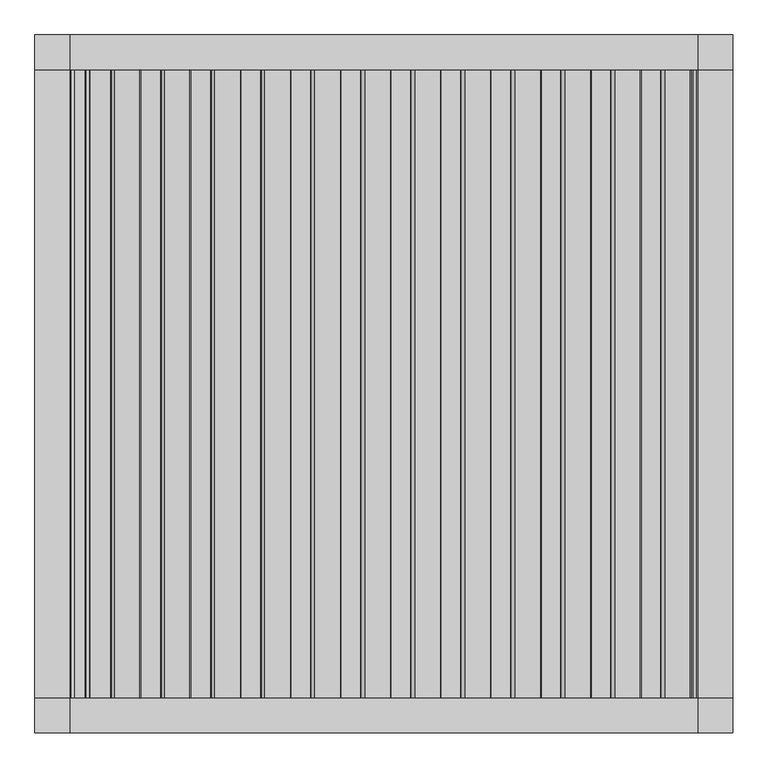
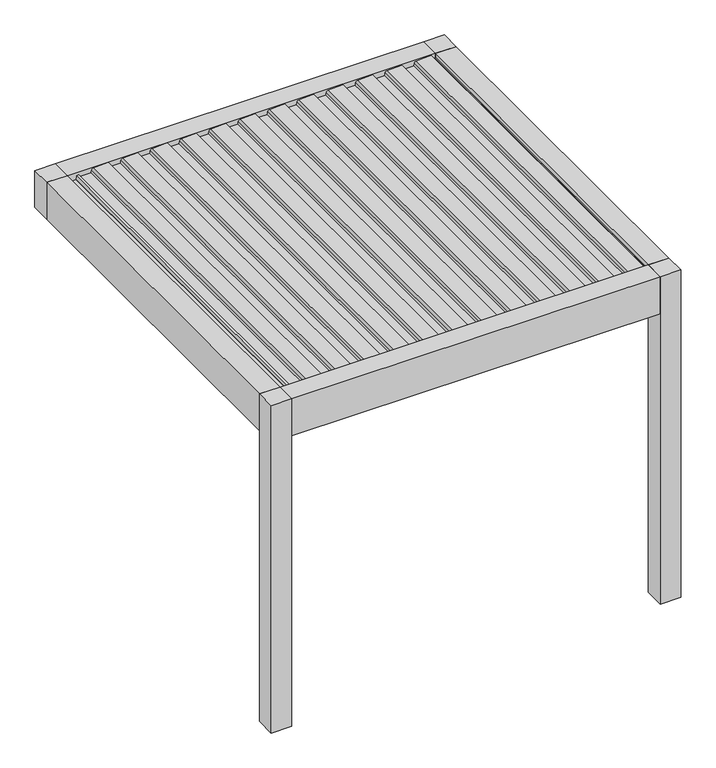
"""IFC4 building model written with IfcOpenShell, lengths in millimetres: proxy geometry, Renson_Amani_Patio_Cover : Renson_Amani_Patio_Cover."""

from ifc_helpers import new_model, si_unit, point, frame, frame_2d, origin, origin_with_axes, place, context, project, spatial, polyline, circle_curve, trimmed, segment, composite_curve, outline, extrude, source, transform, mapped, element, save


def generic_models_6c670f7b(model_context):
    return source(origin(), model_context, "Body", "SweptSolid", [
        extrude(outline(composite_curve([segment(polyline([(2483.35, 1073.7289238), (2511.01198, 1076.1490335), (2512.3970364, 1104.984284), (2531.8911096, 1101.5469529), (2526.6075693, 991.549838)]), True, "CONTINUOUS"), segment(trimmed(circle_curve(frame_2d((2511.6248435, 992.26951)), 15.0), [point((2526.6075693, 991.549838))], [point((2514.2295662, 977.4973937))], False, "CARTESIAN"), True, "CONTINUOUS"), segment(polyline([(2514.2295662, 977.4973937), (2495.0, 974.1067023), (2495.0, 886.3709263), (2512.0788237, 883.3594689), (2511.3450182, 868.0824984), (2483.35, 865.6332517), (2483.35, 1073.7289238)]), True, "CONTINUOUS")], self_intersect=False)), frame((0.0, -1350.0, 0.0), z_axis=(0.0, 1.0, 0.0), x_axis=(0.0, 0.0, 1.0)), (0.0, 0.0, 1.0), 2700.0),
        extrude(outline(composite_curve([segment(polyline([(2483.35, 858.7132078), (2511.01198, 861.1333174), (2512.3970364, 889.9685679), (2531.8911096, 886.5312368), (2526.6075693, 776.534122)]), True, "CONTINUOUS"), segment(trimmed(circle_curve(frame_2d((2511.6248435, 777.2537939)), 15.0), [point((2526.6075693, 776.534122))], [point((2514.2295662, 762.4816776))], False, "CARTESIAN"), True, "CONTINUOUS"), segment(polyline([(2514.2295662, 762.4816776), (2495.0, 759.0909863), (2495.0, 671.3552102), (2512.0788237, 668.3437528), (2511.3450182, 653.0667824), (2483.35, 650.6175356), (2483.35, 858.7132078)]), True, "CONTINUOUS")], self_intersect=False)), frame((0.0, -1350.0, 0.0), z_axis=(0.0, 1.0, 0.0), x_axis=(0.0, 0.0, 1.0)), (0.0, 0.0, 1.0), 2700.0),
        extrude(outline(composite_curve([segment(polyline([(2483.35, 643.6974917), (2511.01198, 646.1176014), (2512.3970364, 674.9528519), (2531.8911096, 671.5155208), (2526.6075693, 561.5184059)]), True, "CONTINUOUS"), segment(trimmed(circle_curve(frame_2d((2511.6248435, 562.2380779)), 15.0), [point((2526.6075693, 561.5184059))], [point((2514.2295662, 547.4659616))], False, "CARTESIAN"), True, "CONTINUOUS"), segment(polyline([(2514.2295662, 547.4659616), (2495.0, 544.0752702), (2495.0, 456.3394942), (2512.0788237, 453.3280368), (2511.3450182, 438.0510663), (2483.35, 435.6018196), (2483.35, 643.6974917)]), True, "CONTINUOUS")], self_intersect=False)), frame((0.0, -1350.0, 0.0), z_axis=(0.0, 1.0, 0.0), x_axis=(0.0, 0.0, 1.0)), (0.0, 0.0, 1.0), 2700.0),
        extrude(outline(composite_curve([segment(polyline([(2483.35, 428.6817757), (2511.01198, 431.1018854), (2512.3970364, 459.9371358), (2531.8911096, 456.4998047), (2526.6075693, 346.5026899)]), True, "CONTINUOUS"), segment(trimmed(circle_curve(frame_2d((2511.6248435, 347.2223618)), 15.0), [point((2526.6075693, 346.5026899))], [point((2514.2295662, 332.4502455))], False, "CARTESIAN"), True, "CONTINUOUS"), segment(polyline([(2514.2295662, 332.4502455), (2495.0, 329.0595542), (2495.0, 241.3237782), (2512.0788237, 238.3123207), (2511.3450182, 223.0353503), (2483.35, 220.5861035), (2483.35, 428.6817757)]), True, "CONTINUOUS")], self_intersect=False)), frame((0.0, -1350.0, 0.0), z_axis=(0.0, 1.0, 0.0), x_axis=(0.0, 0.0, 1.0)), (0.0, 0.0, 1.0), 2700.0),
        extrude(outline(composite_curve([segment(polyline([(2483.35, 213.6660597), (2511.01198, 216.0861693), (2512.3970364, 244.9214198), (2531.8911096, 241.4840887), (2526.6075693, 131.4869738)]), True, "CONTINUOUS"), segment(trimmed(circle_curve(frame_2d((2511.6248435, 132.2066458)), 15.0), [point((2526.6075693, 131.4869738))], [point((2514.2295662, 117.4345295))], False, "CARTESIAN"), True, "CONTINUOUS"), segment(polyline([(2514.2295662, 117.4345295), (2495.0, 114.0438381), (2495.0, 26.3080621), (2512.0788237, 23.2966047), (2511.3450182, 8.0196342), (2483.35, 5.5703875), (2483.35, 213.6660597)]), True, "CONTINUOUS")], self_intersect=False)), frame((0.0, -1350.0, 0.0), z_axis=(0.0, 1.0, 0.0), x_axis=(0.0, 0.0, 1.0)), (0.0, 0.0, 1.0), 2700.0),
        extrude(outline(composite_curve([segment(polyline([(2483.35, -1.3496564), (2511.01198, 1.0704533), (2512.3970364, 29.9057037), (2531.8911096, 26.4683726), (2526.6075693, -83.5287422)]), True, "CONTINUOUS"), segment(trimmed(circle_curve(frame_2d((2511.6248435, -82.8090703)), 15.0), [point((2526.6075693, -83.5287422))], [point((2514.2295662, -97.5811866))], False, "CARTESIAN"), True, "CONTINUOUS"), segment(polyline([(2514.2295662, -97.5811866), (2495.0, -100.9718779), (2495.0, -188.7076539), (2512.0788237, -191.7191114), (2511.3450182, -206.9960818), (2483.35, -209.4453286), (2483.35, -1.3496564)]), True, "CONTINUOUS")], self_intersect=False)), frame((0.0, -1350.0, 0.0), z_axis=(0.0, 1.0, 0.0), x_axis=(0.0, 0.0, 1.0)), (0.0, 0.0, 1.0), 2700.0),
        extrude(outline(composite_curve([segment(polyline([(2483.35, -216.3653724), (2511.01198, -213.9452628), (2512.3970364, -185.1100123), (2531.8911096, -188.5473434), (2526.6075693, -298.5444582)]), True, "CONTINUOUS"), segment(trimmed(circle_curve(frame_2d((2511.6248435, -297.8247863)), 15.0), [point((2526.6075693, -298.5444582))], [point((2514.2295662, -312.5969026))], False, "CARTESIAN"), True, "CONTINUOUS"), segment(polyline([(2514.2295662, -312.5969026), (2495.0, -315.987594), (2495.0, -403.72337), (2512.0788237, -406.7348274), (2511.3450182, -422.0117979), (2483.35, -424.4610446), (2483.35, -216.3653724)]), True, "CONTINUOUS")], self_intersect=False)), frame((0.0, -1350.0, 0.0), z_axis=(0.0, 1.0, 0.0), x_axis=(0.0, 0.0, 1.0)), (0.0, 0.0, 1.0), 2700.0),
        extrude(outline(composite_curve([segment(polyline([(2483.35, -431.3810885), (2511.01198, -428.9609788), (2512.3970364, -400.1257284), (2531.8911096, -403.5630594), (2526.6075693, -513.5601743)]), True, "CONTINUOUS"), segment(trimmed(circle_curve(frame_2d((2511.6248435, -512.8405024)), 15.0), [point((2526.6075693, -513.5601743))], [point((2514.2295662, -527.6126187))], False, "CARTESIAN"), True, "CONTINUOUS"), segment(polyline([(2514.2295662, -527.6126187), (2495.0, -531.00331), (2495.0, -618.739086), (2512.0788237, -621.7505434), (2511.3450182, -637.0275139), (2483.35, -639.4767606), (2483.35, -431.3810885)]), True, "CONTINUOUS")], self_intersect=False)), frame((0.0, -1350.0, 0.0), z_axis=(0.0, 1.0, 0.0), x_axis=(0.0, 0.0, 1.0)), (0.0, 0.0, 1.0), 2700.0),
        extrude(outline(composite_curve([segment(polyline([(2483.35, -646.3968045), (2511.01198, -643.9766949), (2512.3970364, -615.1414444), (2531.8911096, -618.5787755), (2526.6075693, -728.5758903)]), True, "CONTINUOUS"), segment(trimmed(circle_curve(frame_2d((2511.6248435, -727.8562184)), 15.0), [point((2526.6075693, -728.5758903))], [point((2514.2295662, -742.6283347))], False, "CARTESIAN"), True, "CONTINUOUS"), segment(polyline([(2514.2295662, -742.6283347), (2495.0, -746.019026), (2495.0, -833.7548021), (2512.0788237, -836.7662595), (2511.3450182, -852.04323), (2483.35, -854.4924767), (2483.35, -646.3968045)]), True, "CONTINUOUS")], self_intersect=False)), frame((0.0, -1350.0, 0.0), z_axis=(0.0, 1.0, 0.0), x_axis=(0.0, 0.0, 1.0)), (0.0, 0.0, 1.0), 2700.0),
        extrude(outline(composite_curve([segment(polyline([(2483.35, -861.4125206), (2511.01198, -858.9924109), (2512.3970364, -830.1571605), (2531.8911096, -833.5944915), (2526.6075693, -943.5916064)]), True, "CONTINUOUS"), segment(trimmed(circle_curve(frame_2d((2511.6248435, -942.8719345)), 15.0), [point((2526.6075693, -943.5916064))], [point((2514.2295662, -957.6440508))], False, "CARTESIAN"), True, "CONTINUOUS"), segment(polyline([(2514.2295662, -957.6440508), (2495.0, -961.0347421), (2495.0, -1048.7705181), (2512.0788237, -1051.7819755), (2511.3450182, -1067.058946), (2483.35, -1069.5081927), (2483.35, -861.4125206)]), True, "CONTINUOUS")], self_intersect=False)), frame((0.0, -1350.0, 0.0), z_axis=(0.0, 1.0, 0.0), x_axis=(0.0, 0.0, 1.0)), (0.0, 0.0, 1.0), 2700.0),
        extrude(outline(composite_curve([segment(polyline([(2483.35, 1288.7446399), (2511.01198, 1291.1647495), (2512.3970364, 1320.0), (2531.8911096, 1316.5626689), (2526.6075693, 1206.5655541)]), True, "CONTINUOUS"), segment(trimmed(circle_curve(frame_2d((2511.6248435, 1207.285226)), 15.0), [point((2526.6075693, 1206.5655541))], [point((2514.2295662, 1192.5131097))], False, "CARTESIAN"), True, "CONTINUOUS"), segment(polyline([(2514.2295662, 1192.5131097), (2495.0, 1189.1224184), (2495.0, 1101.3866423), (2512.0788237, 1098.3751849), (2511.3450182, 1083.0982144), (2483.35, 1080.6489677), (2483.35, 1288.7446399)]), True, "CONTINUOUS")], self_intersect=False)), frame((0.0, -1350.0, 0.0), z_axis=(0.0, 1.0, 0.0), x_axis=(0.0, 0.0, 1.0)), (0.0, 0.0, 1.0), 2700.0),
        extrude(outline(composite_curve([segment(polyline([(2483.35, -1076.4282366), (2511.01198, -1074.008127), (2512.3970364, -1045.1728765), (2531.8911096, -1048.6102076), (2526.6075693, -1158.6073224)]), True, "CONTINUOUS"), segment(trimmed(circle_curve(frame_2d((2511.6248435, -1157.8876505)), 15.0), [point((2526.6075693, -1158.6073224))], [point((2514.2295662, -1172.6597668))], False, "CARTESIAN"), True, "CONTINUOUS"), segment(polyline([(2514.2295662, -1172.6597668), (2495.0, -1176.0504581), (2495.0, -1263.7862342), (2512.0788237, -1266.7976916), (2511.3450182, -1282.0746621), (2483.35, -1284.5239088), (2483.35, -1076.4282366)]), True, "CONTINUOUS")], self_intersect=False)), frame((0.0, -1350.0, 0.0), z_axis=(0.0, 1.0, 0.0), x_axis=(0.0, 0.0, 1.0)), (0.0, 0.0, 1.0), 2700.0),
        extrude(outline(polyline([(1500.0, 1500.0), (1500.0, 1350.0), (1350.0, 1350.0), (1350.0, 1500.0), (1500.0, 1500.0)])), frame((0.0, 0.0, 2250.0), z_axis=(0.0, 0.0, 1.0), x_axis=(1.0, 0.0, 0.0)), (0.0, 0.0, 1.0), 285.0),
        extrude(outline(polyline([(-1350.0, 1500.0), (-1350.0, 1350.0), (-1500.0, 1350.0), (-1500.0, 1500.0), (-1350.0, 1500.0)])), frame((0.0, 0.0, 2250.0), z_axis=(0.0, 0.0, 1.0), x_axis=(1.0, 0.0, 0.0)), (0.0, 0.0, 1.0), 285.0),
        extrude(outline(polyline([(1500.0, -1350.0), (1500.0, -1500.0), (1350.0, -1500.0), (1350.0, -1350.0), (1500.0, -1350.0)])), origin_with_axes(), (0.0, 0.0, 1.0), 2535.0),
        extrude(outline(polyline([(-1350.0, -1350.0), (-1350.0, -1500.0), (-1500.0, -1500.0), (-1500.0, -1350.0), (-1350.0, -1350.0)])), origin_with_axes(), (0.0, 0.0, 1.0), 2535.0),
        extrude(outline(polyline([(2466.6559373, -1350.0), (2466.6559373, -1290.0), (2480.6555802, -1286.2487113), (2480.6555802, -1329.5940945), (2496.400763, -1345.0), (2504.2449277, -1345.0), (2504.6823598, -1350.0), (2466.6559373, -1350.0)])), frame((0.0, -1350.0, 0.0), z_axis=(0.0, 1.0, 0.0), x_axis=(0.0, 0.0, 1.0)), (0.0, 0.0, 1.0), 2700.0),
        extrude(outline(polyline([(-1350.0, -1350.0), (-1500.0, -1350.0), (-1500.0, 1350.0), (-1350.0, 1350.0), (-1350.0, -1350.0)])), frame((0.0, 0.0, 2250.0), z_axis=(0.0, 0.0, 1.0), x_axis=(1.0, 0.0, 0.0)), (0.0, 0.0, 1.0), 285.0),
        extrude(outline(polyline([(2535.0, 1500.0), (2535.0, 1350.0), (2504.6904658, 1350.0), (2504.2449277, 1345.0), (2496.400763, 1345.0), (2480.6555802, 1329.2544156), (2480.6555802, 1319.9090324), (2466.6559373, 1323.6603211), (2466.6559373, 1350.0), (2250.0, 1350.0), (2250.0, 1500.0), (2535.0, 1500.0)])), frame((0.0, -1350.0, 0.0), z_axis=(0.0, 1.0, 0.0), x_axis=(0.0, 0.0, 1.0)), (0.0, 0.0, 1.0), 2700.0),
        extrude(outline(polyline([(-1350.0, 2535.0), (-1350.0, 2322.0), (-1280.0000001, 2322.0), (-1280.0000001, 2250.0), (-1500.0, 2250.0), (-1500.0, 2535.0), (-1350.0, 2535.0)])), frame((-1350.0, 0.0, 0.0), z_axis=(1.0, 0.0, 0.0), x_axis=(0.0, 1.0, 0.0)), (0.0, 0.0, 1.0), 2700.0),
        extrude(outline(polyline([(1500.0, 2250.0), (1280.0000001, 2250.0), (1280.0000001, 2322.0), (1350.0, 2322.0), (1350.0, 2535.0), (1500.0, 2535.0), (1500.0, 2250.0)])), frame((-1350.0, 0.0, 0.0), z_axis=(1.0, 0.0, 0.0), x_axis=(0.0, 1.0, 0.0)), (0.0, 0.0, 1.0), 2700.0),
    ])


if __name__ == "__main__":
    model = new_model("IFC4")
    model_context = context("Model", 3, world=origin())
    ifc_project = project(units=[si_unit("LENGTHUNIT", "METRE", prefix="MILLI")], contexts=[model_context])
    site = spatial("IfcSite", under=ifc_project)
    building = spatial("IfcBuilding", under=site)
    placement = place(None, origin())
    generic_models_shape = generic_models_6c670f7b(model_context)
    element("IfcBuildingElementProxy", 1, Name="Renson_Amani_Patio_Cover : Renson_Amani_Patio_Cover", ObjectType="Renson_Amani_Patio_Cover : Renson_Amani_Patio_Cover", at=placement, inside=building, context=model_context, shape_type="MappedRepresentation", body=[
        mapped(generic_models_shape, transform((0.0, 0.0, 0.0), x_axis=(1.0, 0.0, 0.0), y_axis=(0.0, 1.0, 0.0), z_axis=(0.0, 0.0, 1.0))),
    ])
    save(model, "model.ifc")
